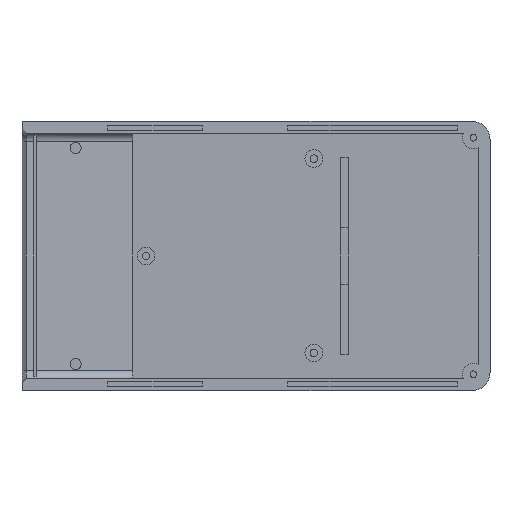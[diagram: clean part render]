
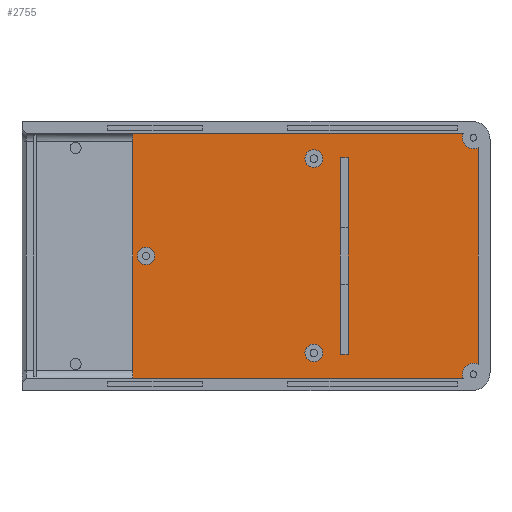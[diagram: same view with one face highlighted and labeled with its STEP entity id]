
A CAD part, front view. The second image highlights one B-rep face of the part: STEP entity #2755.
In plain terms, the highlighted planar face has unit normal (0, -1, 0).
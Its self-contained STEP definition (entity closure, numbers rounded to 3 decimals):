
#59 = ORIENTED_EDGE ( 'NONE', *, *, #244, .T. ) ;
#82 = FACE_BOUND ( 'NONE', #2642, .T. ) ;
#96 = VECTOR ( 'NONE', #3536, 1000. ) ;
#115 = ORIENTED_EDGE ( 'NONE', *, *, #3165, .F. ) ;
#134 = EDGE_CURVE ( 'NONE', #3475, #1738, #325, .T. ) ;
#143 = AXIS2_PLACEMENT_3D ( 'NONE', #2406, #2423, #2361 ) ;
#160 = CARTESIAN_POINT ( 'NONE',  ( 50.15, 4.8, 24.431 ) ) ;
#181 = AXIS2_PLACEMENT_3D ( 'NONE', #2674, #2671, #2668 ) ;
#213 = ORIENTED_EDGE ( 'NONE', *, *, #707, .F. ) ;
#244 = EDGE_CURVE ( 'NONE', #2847, #3475, #2876, .T. ) ;
#281 = DIRECTION ( 'NONE',  ( 0., 1., 0. ) ) ;
#282 = CIRCLE ( 'NONE', #143, 2. ) ;
#286 = CARTESIAN_POINT ( 'NONE',  ( 49.1, 4.8, 26.7 ) ) ;
#297 = VERTEX_POINT ( 'NONE', #1639 ) ;
#310 = DIRECTION ( 'NONE',  ( 0., 0., -1. ) ) ;
#321 = ORIENTED_EDGE ( 'NONE', *, *, #2062, .F. ) ;
#323 = EDGE_CURVE ( 'NONE', #1147, #3471, #2663, .T. ) ;
#325 = CIRCLE ( 'NONE', #1279, 2.5 ) ;
#404 = ORIENTED_EDGE ( 'NONE', *, *, #3075, .F. ) ;
#430 = CARTESIAN_POINT ( 'NONE',  ( 46.831, 4.8, -27.75 ) ) ;
#448 = EDGE_CURVE ( 'NONE', #1529, #3454, #1622, .T. ) ;
#449 = EDGE_CURVE ( 'NONE', #634, #1865, #2483, .T. ) ;
#461 = ORIENTED_EDGE ( 'NONE', *, *, #2330, .F. ) ;
#469 = VECTOR ( 'NONE', #3402, 1000. ) ;
#492 = ORIENTED_EDGE ( 'NONE', *, *, #1053, .F. ) ;
#567 = EDGE_CURVE ( 'NONE', #634, #1529, #1208, .T. ) ;
#589 = LINE ( 'NONE', #3237, #1234 ) ;
#613 = CARTESIAN_POINT ( 'NONE',  ( 49.1, 4.8, -26.7 ) ) ;
#618 = DIRECTION ( 'NONE',  ( 0., 1., 0. ) ) ;
#620 = DIRECTION ( 'NONE',  ( 0., 0., -1. ) ) ;
#634 = VERTEX_POINT ( 'NONE', #2867 ) ;
#654 = VERTEX_POINT ( 'NONE', #2662 ) ;
#707 = EDGE_CURVE ( 'NONE', #297, #1720, #282, .T. ) ;
#741 = DIRECTION ( 'NONE',  ( 0., 0., -1. ) ) ;
#745 = DIRECTION ( 'NONE',  ( 0., -1., 0. ) ) ;
#751 = CARTESIAN_POINT ( 'NONE',  ( -24.85, 4.8, 0. ) ) ;
#791 = CARTESIAN_POINT ( 'NONE',  ( -24.85, 4.8, 0. ) ) ;
#797 = DIRECTION ( 'NONE',  ( 0., -1., 0. ) ) ;
#805 = DIRECTION ( 'NONE',  ( 0., 0., -1. ) ) ;
#806 = DIRECTION ( 'NONE',  ( 0., 0., -1. ) ) ;
#810 = DIRECTION ( 'NONE',  ( 0., -1., 0. ) ) ;
#834 = PLANE ( 'NONE',  #1591 ) ;
#889 = CARTESIAN_POINT ( 'NONE',  ( 13.05, 4.8, -23.9 ) ) ;
#899 = VECTOR ( 'NONE', #2960, 1000. ) ;
#943 = CARTESIAN_POINT ( 'NONE',  ( 0., 4.8, 0. ) ) ;
#992 = ORIENTED_EDGE ( 'NONE', *, *, #134, .T. ) ;
#1012 = CARTESIAN_POINT ( 'NONE',  ( 20.85, 4.8, -22.2 ) ) ;
#1053 = EDGE_CURVE ( 'NONE', #2726, #654, #3445, .T. ) ;
#1079 = ORIENTED_EDGE ( 'NONE', *, *, #2772, .F. ) ;
#1102 = CARTESIAN_POINT ( 'NONE',  ( 19.05, 4.8, 22.2 ) ) ;
#1145 = EDGE_CURVE ( 'NONE', #1471, #3572, #3182, .T. ) ;
#1147 = VERTEX_POINT ( 'NONE', #2701 ) ;
#1178 = DIRECTION ( 'NONE',  ( 0., -1., 0. ) ) ;
#1208 = LINE ( 'NONE', #3279, #469 ) ;
#1213 = ORIENTED_EDGE ( 'NONE', *, *, #3071, .T. ) ;
#1234 = VECTOR ( 'NONE', #3197, 1000. ) ;
#1257 = CIRCLE ( 'NONE', #3036, 2. ) ;
#1279 = AXIS2_PLACEMENT_3D ( 'NONE', #286, #281, #310 ) ;
#1301 = EDGE_LOOP ( 'NONE', ( #1908, #1213, #59, #992, #2263, #1766, #1632 ) ) ;
#1340 = CARTESIAN_POINT ( 'NONE',  ( -24.85, 4.8, -2. ) ) ;
#1359 = CARTESIAN_POINT ( 'NONE',  ( 49.1, 4.8, 24.2 ) ) ;
#1372 = CARTESIAN_POINT ( 'NONE',  ( 50.15, 4.8, -24.431 ) ) ;
#1406 = AXIS2_PLACEMENT_3D ( 'NONE', #751, #745, #741 ) ;
#1470 = FACE_BOUND ( 'NONE', #3015, .T. ) ;
#1471 = VERTEX_POINT ( 'NONE', #1689 ) ;
#1478 = DIRECTION ( 'NONE',  ( 0., 0., -1. ) ) ;
#1527 = CARTESIAN_POINT ( 'NONE',  ( 49.1, 4.8, 26.7 ) ) ;
#1529 = VERTEX_POINT ( 'NONE', #430 ) ;
#1530 = DIRECTION ( 'NONE',  ( 0., 1., 0. ) ) ;
#1535 = DIRECTION ( 'NONE',  ( 0., 0., -1. ) ) ;
#1558 = FACE_OUTER_BOUND ( 'NONE', #1301, .T. ) ;
#1570 = EDGE_LOOP ( 'NONE', ( #404, #213 ) ) ;
#1575 = LINE ( 'NONE', #3545, #96 ) ;
#1583 = AXIS2_PLACEMENT_3D ( 'NONE', #791, #797, #806 ) ;
#1591 = AXIS2_PLACEMENT_3D ( 'NONE', #943, #810, #805 ) ;
#1616 = CARTESIAN_POINT ( 'NONE',  ( -53.85, 4.8, 27.75 ) ) ;
#1622 = CIRCLE ( 'NONE', #2728, 2.5 ) ;
#1624 = DIRECTION ( 'NONE',  ( -1., 0., 0. ) ) ;
#1632 = ORIENTED_EDGE ( 'NONE', *, *, #567, .T. ) ;
#1635 = CARTESIAN_POINT ( 'NONE',  ( 50.15, 4.8, 27.75 ) ) ;
#1639 = CARTESIAN_POINT ( 'NONE',  ( 13.05, 4.8, 20. ) ) ;
#1674 = ORIENTED_EDGE ( 'NONE', *, *, #323, .F. ) ;
#1688 = DIRECTION ( 'NONE',  ( 0., 0., 1. ) ) ;
#1689 = CARTESIAN_POINT ( 'NONE',  ( 13.05, 4.8, -19.9 ) ) ;
#1720 = VERTEX_POINT ( 'NONE', #2884 ) ;
#1738 = VERTEX_POINT ( 'NONE', #2812 ) ;
#1743 = CARTESIAN_POINT ( 'NONE',  ( -27.85, 4.8, 0. ) ) ;
#1766 = ORIENTED_EDGE ( 'NONE', *, *, #449, .F. ) ;
#1852 = CARTESIAN_POINT ( 'NONE',  ( -27.85, 4.8, 27.75 ) ) ;
#1865 = VERTEX_POINT ( 'NONE', #1852 ) ;
#1902 = LINE ( 'NONE', #1635, #2761 ) ;
#1908 = ORIENTED_EDGE ( 'NONE', *, *, #448, .T. ) ;
#2056 = CIRCLE ( 'NONE', #2121, 2. ) ;
#2062 = EDGE_CURVE ( 'NONE', #654, #3571, #1575, .T. ) ;
#2121 = AXIS2_PLACEMENT_3D ( 'NONE', #2452, #2448, #2446 ) ;
#2155 = EDGE_CURVE ( 'NONE', #3571, #3120, #589, .T. ) ;
#2237 = FACE_BOUND ( 'NONE', #2252, .T. ) ;
#2252 = EDGE_LOOP ( 'NONE', ( #3264, #461 ) ) ;
#2263 = ORIENTED_EDGE ( 'NONE', *, *, #3398, .T. ) ;
#2330 = EDGE_CURVE ( 'NONE', #3572, #1471, #2056, .T. ) ;
#2361 = DIRECTION ( 'NONE',  ( 0., 0., -1. ) ) ;
#2406 = CARTESIAN_POINT ( 'NONE',  ( 13.05, 4.8, 22. ) ) ;
#2423 = DIRECTION ( 'NONE',  ( 0., -1., 0. ) ) ;
#2446 = DIRECTION ( 'NONE',  ( 0., 0., -1. ) ) ;
#2448 = DIRECTION ( 'NONE',  ( 0., -1., 0. ) ) ;
#2452 = CARTESIAN_POINT ( 'NONE',  ( 13.05, 4.8, -21.9 ) ) ;
#2483 = LINE ( 'NONE', #1743, #899 ) ;
#2595 = VECTOR ( 'NONE', #3063, 1000. ) ;
#2635 = VECTOR ( 'NONE', #1624, 1000. ) ;
#2642 = EDGE_LOOP ( 'NONE', ( #321, #492, #115, #3332 ) ) ;
#2662 = CARTESIAN_POINT ( 'NONE',  ( 19.05, 4.8, -22.2 ) ) ;
#2663 = CIRCLE ( 'NONE', #1583, 2. ) ;
#2668 = DIRECTION ( 'NONE',  ( 0., 0., -1. ) ) ;
#2671 = DIRECTION ( 'NONE',  ( 0., -1., 0. ) ) ;
#2674 = CARTESIAN_POINT ( 'NONE',  ( 13.05, 4.8, -21.9 ) ) ;
#2701 = CARTESIAN_POINT ( 'NONE',  ( -24.85, 4.8, 2. ) ) ;
#2705 = VECTOR ( 'NONE', #3187, 1000. ) ;
#2724 = LINE ( 'NONE', #1616, #2635 ) ;
#2726 = VERTEX_POINT ( 'NONE', #1102 ) ;
#2728 = AXIS2_PLACEMENT_3D ( 'NONE', #613, #618, #620 ) ;
#2755 = ADVANCED_FACE ( 'NONE', ( #1558, #2987, #82, #2237, #1470 ), #834, .T. ) ;
#2761 = VECTOR ( 'NONE', #1688, 1000. ) ;
#2772 = EDGE_CURVE ( 'NONE', #3471, #1147, #2894, .T. ) ;
#2798 = AXIS2_PLACEMENT_3D ( 'NONE', #1527, #1530, #1535 ) ;
#2812 = CARTESIAN_POINT ( 'NONE',  ( 46.831, 4.8, 27.75 ) ) ;
#2847 = VERTEX_POINT ( 'NONE', #160 ) ;
#2867 = CARTESIAN_POINT ( 'NONE',  ( -27.85, 4.8, -27.75 ) ) ;
#2876 = CIRCLE ( 'NONE', #2798, 2.5 ) ;
#2884 = CARTESIAN_POINT ( 'NONE',  ( 13.05, 4.8, 24. ) ) ;
#2894 = CIRCLE ( 'NONE', #1406, 2. ) ;
#2960 = DIRECTION ( 'NONE',  ( 0., 0., 1. ) ) ;
#2987 = FACE_BOUND ( 'NONE', #1570, .T. ) ;
#3015 = EDGE_LOOP ( 'NONE', ( #1674, #1079 ) ) ;
#3036 = AXIS2_PLACEMENT_3D ( 'NONE', #3552, #1178, #1478 ) ;
#3063 = DIRECTION ( 'NONE',  ( -1., 0., 0. ) ) ;
#3071 = EDGE_CURVE ( 'NONE', #3454, #2847, #1902, .T. ) ;
#3075 = EDGE_CURVE ( 'NONE', #1720, #297, #1257, .T. ) ;
#3120 = VERTEX_POINT ( 'NONE', #3322 ) ;
#3165 = EDGE_CURVE ( 'NONE', #3120, #2726, #3335, .T. ) ;
#3182 = CIRCLE ( 'NONE', #181, 2. ) ;
#3187 = DIRECTION ( 'NONE',  ( 0., 0., -1. ) ) ;
#3197 = DIRECTION ( 'NONE',  ( 0., 0., 1. ) ) ;
#3204 = CARTESIAN_POINT ( 'NONE',  ( 19.05, 4.8, 22.2 ) ) ;
#3234 = CARTESIAN_POINT ( 'NONE',  ( 19.05, 4.8, 22.2 ) ) ;
#3237 = CARTESIAN_POINT ( 'NONE',  ( 20.85, 4.8, 22.2 ) ) ;
#3264 = ORIENTED_EDGE ( 'NONE', *, *, #1145, .F. ) ;
#3279 = CARTESIAN_POINT ( 'NONE',  ( -53.85, 4.8, -27.75 ) ) ;
#3322 = CARTESIAN_POINT ( 'NONE',  ( 20.85, 4.8, 22.2 ) ) ;
#3332 = ORIENTED_EDGE ( 'NONE', *, *, #2155, .F. ) ;
#3335 = LINE ( 'NONE', #3234, #2595 ) ;
#3398 = EDGE_CURVE ( 'NONE', #1738, #1865, #2724, .T. ) ;
#3402 = DIRECTION ( 'NONE',  ( 1., 0., 0. ) ) ;
#3445 = LINE ( 'NONE', #3204, #2705 ) ;
#3454 = VERTEX_POINT ( 'NONE', #1372 ) ;
#3471 = VERTEX_POINT ( 'NONE', #1340 ) ;
#3475 = VERTEX_POINT ( 'NONE', #1359 ) ;
#3536 = DIRECTION ( 'NONE',  ( 1., 0., 0. ) ) ;
#3545 = CARTESIAN_POINT ( 'NONE',  ( 19.05, 4.8, -22.2 ) ) ;
#3552 = CARTESIAN_POINT ( 'NONE',  ( 13.05, 4.8, 22. ) ) ;
#3571 = VERTEX_POINT ( 'NONE', #1012 ) ;
#3572 = VERTEX_POINT ( 'NONE', #889 ) ;
